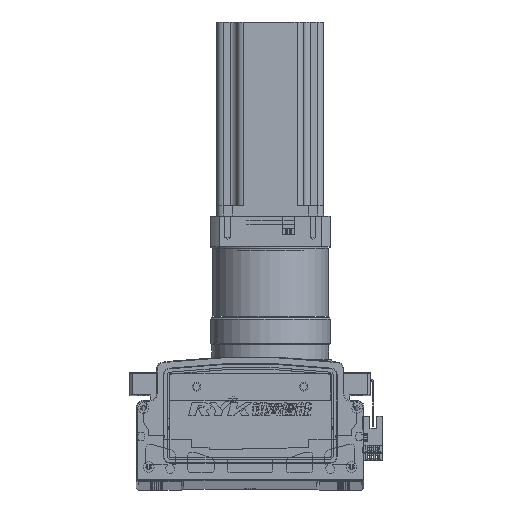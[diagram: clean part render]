
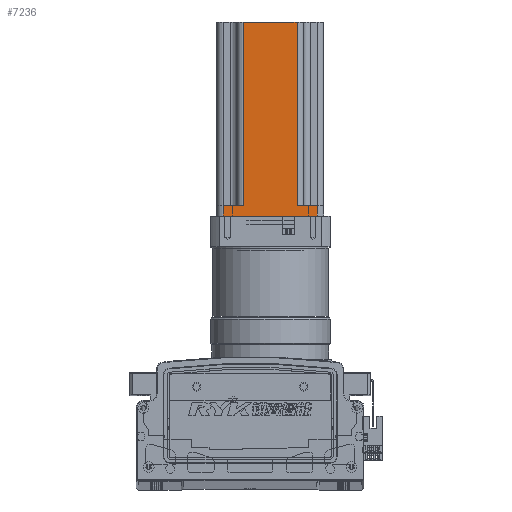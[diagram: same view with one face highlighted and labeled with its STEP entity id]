
A CAD part, top view. The second image highlights one B-rep face of the part: STEP entity #7236.
In plain terms, the highlighted planar face has unit normal (0, 0, 1) as drawn and (0, -1, 0) by its records, which use the part's own axes.
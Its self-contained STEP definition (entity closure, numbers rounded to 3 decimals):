
#7236 = ADVANCED_FACE ( 'NONE', ( #33381 ), #103124, .F. ) ;
#33381 = FACE_OUTER_BOUND ( 'NONE', #94271, .T. ) ;
#35679 = CARTESIAN_POINT ( 'NONE',  ( -12.587, -40.37, 8. ) ) ;
#39579 = CARTESIAN_POINT ( 'NONE',  ( -87.587, -40.37, 0. ) ) ;
#39582 = DIRECTION ( 'NONE',  ( 1., 0., 0. ) ) ;
#40054 = CARTESIAN_POINT ( 'NONE',  ( -87.587, -40.37, 145. ) ) ;
#40057 = DIRECTION ( 'NONE',  ( 1., 0., 0. ) ) ;
#40089 = DIRECTION ( 'NONE',  ( 0., 0., -1. ) ) ;
#40095 = DIRECTION ( 'NONE',  ( 1., 0., 0. ) ) ;
#40147 = CARTESIAN_POINT ( 'NONE',  ( -67.587, -40.37, 145. ) ) ;
#40156 = CARTESIAN_POINT ( 'NONE',  ( -7.587, -40.37, 8. ) ) ;
#40351 = CARTESIAN_POINT ( 'NONE',  ( -82.587, -40.37, 145. ) ) ;
#40363 = DIRECTION ( 'NONE',  ( 0., 0., -1. ) ) ;
#40380 = CARTESIAN_POINT ( 'NONE',  ( -87.587, -40.37, 8. ) ) ;
#40458 = DIRECTION ( 'NONE',  ( 1., 0., 0. ) ) ;
#40488 = CARTESIAN_POINT ( 'NONE',  ( -12.587, -40.37, 145. ) ) ;
#40504 = CARTESIAN_POINT ( 'NONE',  ( -27.587, -40.37, 145. ) ) ;
#40594 = DIRECTION ( 'NONE',  ( 0., 0., 1. ) ) ;
#40615 = DIRECTION ( 'NONE',  ( 0., 0., 1. ) ) ;
#50504 = AXIS2_PLACEMENT_3D ( 'NONE', #103138, #103149, #103120 ) ;
#57080 = CARTESIAN_POINT ( 'NONE',  ( -27.587, -40.37, 145. ) ) ;
#57121 = CARTESIAN_POINT ( 'NONE',  ( -82.587, -40.37, 0. ) ) ;
#57143 = CARTESIAN_POINT ( 'NONE',  ( -82.587, -40.37, 8. ) ) ;
#57154 = CARTESIAN_POINT ( 'NONE',  ( -12.587, -40.37, 0. ) ) ;
#57168 = CARTESIAN_POINT ( 'NONE',  ( -67.587, -40.37, 8. ) ) ;
#57212 = CARTESIAN_POINT ( 'NONE',  ( -67.587, -40.37, 145. ) ) ;
#57239 = CARTESIAN_POINT ( 'NONE',  ( -27.587, -40.37, 8. ) ) ;
#84846 = EDGE_CURVE ( 'NONE', #86398, #86404, #98580, .T. ) ;
#84936 = EDGE_CURVE ( 'NONE', #86423, #86439, #98654, .T. ) ;
#84943 = EDGE_CURVE ( 'NONE', #86420, #105081, #98676, .T. ) ;
#84952 = EDGE_CURVE ( 'NONE', #86423, #86425, #98678, .T. ) ;
#85000 = EDGE_CURVE ( 'NONE', #86446, #86439, #98752, .T. ) ;
#85006 = EDGE_CURVE ( 'NONE', #86446, #86398, #98804, .T. ) ;
#85019 = EDGE_CURVE ( 'NONE', #86404, #105081, #96434, .T. ) ;
#85027 = EDGE_CURVE ( 'NONE', #86420, #86425, #96450, .T. ) ;
#86398 = VERTEX_POINT ( 'NONE', #57121 ) ;
#86404 = VERTEX_POINT ( 'NONE', #57154 ) ;
#86420 = VERTEX_POINT ( 'NONE', #57239 ) ;
#86423 = VERTEX_POINT ( 'NONE', #57212 ) ;
#86425 = VERTEX_POINT ( 'NONE', #57080 ) ;
#86439 = VERTEX_POINT ( 'NONE', #57168 ) ;
#86446 = VERTEX_POINT ( 'NONE', #57143 ) ;
#94271 = EDGE_LOOP ( 'NONE', ( #97405, #97553, #97347, #97569, #97349, #97383, #97473, #97381 ) ) ;
#96424 = VECTOR ( 'NONE', #40615, 1000. ) ;
#96434 = LINE ( 'NONE', #40488, #96472 ) ;
#96450 = LINE ( 'NONE', #40504, #96424 ) ;
#96472 = VECTOR ( 'NONE', #40594, 1000. ) ;
#97347 = ORIENTED_EDGE ( 'NONE', *, *, #84846, .T. ) ;
#97349 = ORIENTED_EDGE ( 'NONE', *, *, #84943, .F. ) ;
#97381 = ORIENTED_EDGE ( 'NONE', *, *, #84936, .T. ) ;
#97383 = ORIENTED_EDGE ( 'NONE', *, *, #85027, .T. ) ;
#97405 = ORIENTED_EDGE ( 'NONE', *, *, #85000, .F. ) ;
#97473 = ORIENTED_EDGE ( 'NONE', *, *, #84952, .F. ) ;
#97553 = ORIENTED_EDGE ( 'NONE', *, *, #85006, .T. ) ;
#97569 = ORIENTED_EDGE ( 'NONE', *, *, #85019, .T. ) ;
#98476 = VECTOR ( 'NONE', #39582, 1000. ) ;
#98580 = LINE ( 'NONE', #39579, #98476 ) ;
#98600 = VECTOR ( 'NONE', #40089, 1000. ) ;
#98620 = VECTOR ( 'NONE', #40095, 1000. ) ;
#98654 = LINE ( 'NONE', #40147, #98600 ) ;
#98676 = LINE ( 'NONE', #40156, #98620 ) ;
#98678 = LINE ( 'NONE', #40054, #98688 ) ;
#98688 = VECTOR ( 'NONE', #40057, 1000. ) ;
#98752 = LINE ( 'NONE', #40380, #98818 ) ;
#98804 = LINE ( 'NONE', #40351, #98820 ) ;
#98818 = VECTOR ( 'NONE', #40458, 1000. ) ;
#98820 = VECTOR ( 'NONE', #40363, 1000. ) ;
#103120 = DIRECTION ( 'NONE',  ( -1., 0., 0. ) ) ;
#103124 = PLANE ( 'NONE',  #50504 ) ;
#103138 = CARTESIAN_POINT ( 'NONE',  ( -87.587, -40.37, 145. ) ) ;
#103149 = DIRECTION ( 'NONE',  ( 0., 1., 0. ) ) ;
#105081 = VERTEX_POINT ( 'NONE', #35679 ) ;
